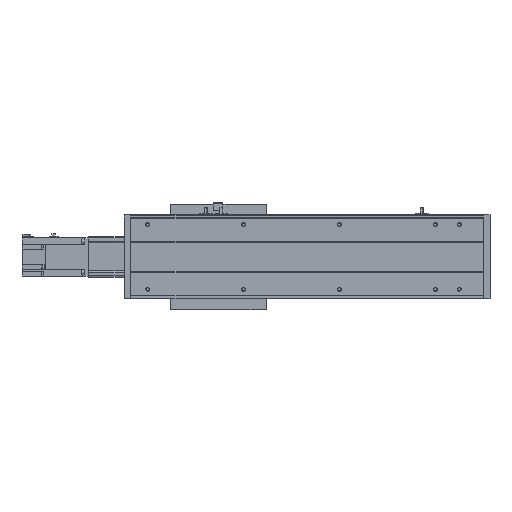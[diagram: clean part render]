
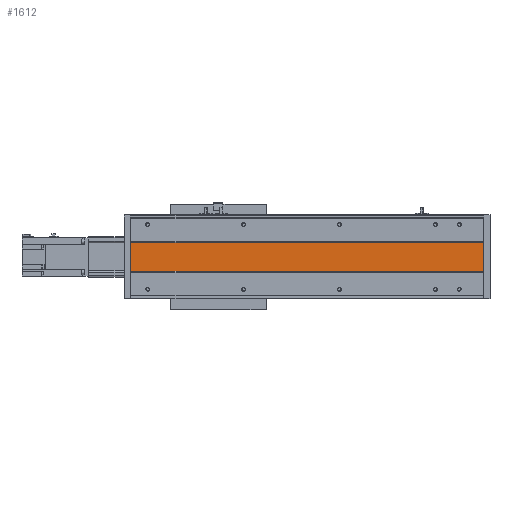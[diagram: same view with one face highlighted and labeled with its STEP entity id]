
A CAD part, front view. The second image highlights one B-rep face of the part: STEP entity #1612.
In plain terms, the highlighted planar face has unit normal (0, -1, 0).
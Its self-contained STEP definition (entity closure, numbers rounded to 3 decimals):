
#1612 = ADVANCED_FACE( '', ( #3302 ), #3303, .F. );
#3302 = FACE_OUTER_BOUND( '', #5023, .T. );
#3303 = PLANE( '', #5024 );
#5023 = EDGE_LOOP( '', ( #9288, #9289, #9290, #9291 ) );
#5024 = AXIS2_PLACEMENT_3D( '', #9292, #9293, #9294 );
#9288 = ORIENTED_EDGE( '', *, *, #11674, .F. );
#9289 = ORIENTED_EDGE( '', *, *, #11675, .T. );
#9290 = ORIENTED_EDGE( '', *, *, #10274, .T. );
#9291 = ORIENTED_EDGE( '', *, *, #11255, .F. );
#9292 = CARTESIAN_POINT( '', ( 763., 1., 30. ) );
#9293 = DIRECTION( '', ( 0., 1., 0. ) );
#9294 = DIRECTION( '', ( 0., 0., 1. ) );
#10274 = EDGE_CURVE( '', #12379, #12377, #12380, .T. );
#11255 = EDGE_CURVE( '', #13891, #12377, #13894, .T. );
#11674 = EDGE_CURVE( '', #14408, #13891, #14409, .T. );
#11675 = EDGE_CURVE( '', #14408, #12379, #14410, .T. );
#12377 = VERTEX_POINT( '', #15379 );
#12379 = VERTEX_POINT( '', #15382 );
#12380 = LINE( '', #15383, #15384 );
#13891 = VERTEX_POINT( '', #17524 );
#13894 = LINE( '', #17528, #17529 );
#14408 = VERTEX_POINT( '', #18227 );
#14409 = LINE( '', #18228, #18229 );
#14410 = LINE( '', #18230, #18231 );
#15379 = CARTESIAN_POINT( '', ( 14., 1., -30. ) );
#15382 = CARTESIAN_POINT( '', ( 14., 1., 30. ) );
#15383 = CARTESIAN_POINT( '', ( 14., 1., 30. ) );
#15384 = VECTOR( '', #18749, 1000. );
#17524 = CARTESIAN_POINT( '', ( 749., 1., -30. ) );
#17528 = CARTESIAN_POINT( '', ( 763., 1., -30. ) );
#17529 = VECTOR( '', #19800, 1000. );
#18227 = CARTESIAN_POINT( '', ( 749., 1., 30. ) );
#18228 = CARTESIAN_POINT( '', ( 749., 1., 30. ) );
#18229 = VECTOR( '', #20132, 1000. );
#18230 = CARTESIAN_POINT( '', ( 763., 1., 30. ) );
#18231 = VECTOR( '', #20133, 1000. );
#18749 = DIRECTION( '', ( 0., 0., -1. ) );
#19800 = DIRECTION( '', ( -1., 0., 0. ) );
#20132 = DIRECTION( '', ( 0., 0., -1. ) );
#20133 = DIRECTION( '', ( -1., 0., 0. ) );
